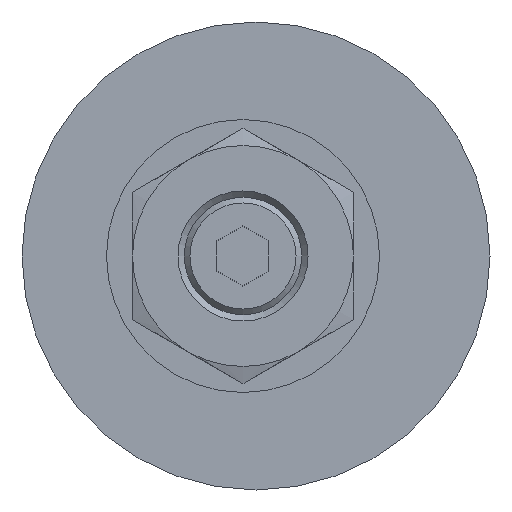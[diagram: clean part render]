
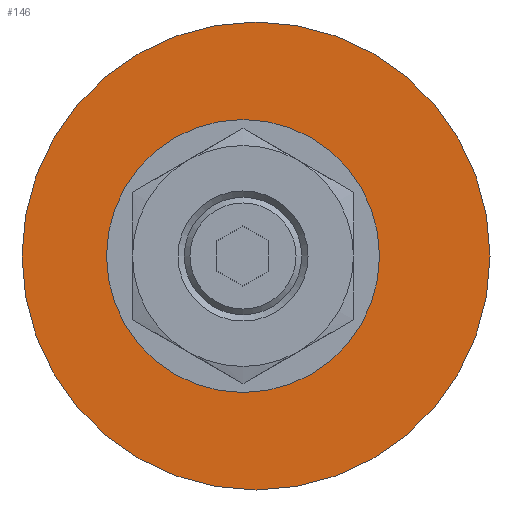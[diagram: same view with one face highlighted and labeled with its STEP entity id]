
A CAD part, front view. The second image highlights one B-rep face of the part: STEP entity #146.
In plain terms, the highlighted planar face has unit normal (0, -1, 0).
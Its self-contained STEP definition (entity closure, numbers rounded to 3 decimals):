
#146 = ADVANCED_FACE( '', ( #211, #212 ), #213, .F. );
#211 = FACE_BOUND( '', #310, .T. );
#212 = FACE_OUTER_BOUND( '', #311, .T. );
#213 = PLANE( '', #312 );
#310 = EDGE_LOOP( '', ( #505, #506, #507, #508, #509, #510 ) );
#311 = EDGE_LOOP( '', ( #511 ) );
#312 = AXIS2_PLACEMENT_3D( '', #512, #513, #514 );
#505 = ORIENTED_EDGE( '', *, *, #726, .T. );
#506 = ORIENTED_EDGE( '', *, *, #727, .T. );
#507 = ORIENTED_EDGE( '', *, *, #728, .T. );
#508 = ORIENTED_EDGE( '', *, *, #729, .T. );
#509 = ORIENTED_EDGE( '', *, *, #730, .T. );
#510 = ORIENTED_EDGE( '', *, *, #731, .T. );
#511 = ORIENTED_EDGE( '', *, *, #732, .T. );
#512 = CARTESIAN_POINT( '', ( 18., 3.8, 0. ) );
#513 = DIRECTION( '', ( 0., 1., 0. ) );
#514 = DIRECTION( '', ( 0., 0., 1. ) );
#726 = EDGE_CURVE( '', #837, #838, #839, .T. );
#727 = EDGE_CURVE( '', #838, #840, #841, .T. );
#728 = EDGE_CURVE( '', #840, #842, #843, .T. );
#729 = EDGE_CURVE( '', #842, #844, #845, .T. );
#730 = EDGE_CURVE( '', #844, #846, #847, .T. );
#731 = EDGE_CURVE( '', #846, #837, #848, .T. );
#732 = EDGE_CURVE( '', #849, #849, #850, .T. );
#837 = VERTEX_POINT( '', #1023 );
#838 = VERTEX_POINT( '', #1024 );
#839 = LINE( '', #1025, #1026 );
#840 = VERTEX_POINT( '', #1027 );
#841 = LINE( '', #1028, #1029 );
#842 = VERTEX_POINT( '', #1030 );
#843 = LINE( '', #1031, #1032 );
#844 = VERTEX_POINT( '', #1033 );
#845 = LINE( '', #1034, #1035 );
#846 = VERTEX_POINT( '', #1036 );
#847 = LINE( '', #1037, #1038 );
#848 = LINE( '', #1039, #1040 );
#849 = VERTEX_POINT( '', #1041 );
#850 = CIRCLE( '', #1042, 18. );
#1023 = CARTESIAN_POINT( '', ( 7.5, 3.8, 4.33 ) );
#1024 = CARTESIAN_POINT( '', ( 7.5, 3.8, -4.33 ) );
#1025 = CARTESIAN_POINT( '', ( 7.5, 3.8, 4.33 ) );
#1026 = VECTOR( '', #1177, 1000. );
#1027 = CARTESIAN_POINT( '', ( 0., 3.8, -8.66 ) );
#1028 = CARTESIAN_POINT( '', ( 7.5, 3.8, -4.33 ) );
#1029 = VECTOR( '', #1178, 1000. );
#1030 = CARTESIAN_POINT( '', ( -7.5, 3.8, -4.33 ) );
#1031 = CARTESIAN_POINT( '', ( 0., 3.8, -8.66 ) );
#1032 = VECTOR( '', #1179, 1000. );
#1033 = CARTESIAN_POINT( '', ( -7.5, 3.8, 4.33 ) );
#1034 = CARTESIAN_POINT( '', ( -7.5, 3.8, -4.33 ) );
#1035 = VECTOR( '', #1180, 1000. );
#1036 = CARTESIAN_POINT( '', ( 0., 3.8, 8.66 ) );
#1037 = CARTESIAN_POINT( '', ( -7.5, 3.8, 4.33 ) );
#1038 = VECTOR( '', #1181, 1000. );
#1039 = CARTESIAN_POINT( '', ( 0., 3.8, 8.66 ) );
#1040 = VECTOR( '', #1182, 1000. );
#1041 = CARTESIAN_POINT( '', ( 0., 3.8, -18. ) );
#1042 = AXIS2_PLACEMENT_3D( '', #1183, #1184, #1185 );
#1177 = DIRECTION( '', ( 0., 0., -1. ) );
#1178 = DIRECTION( '', ( -0.866, 0., -0.5 ) );
#1179 = DIRECTION( '', ( -0.866, 0., 0.5 ) );
#1180 = DIRECTION( '', ( 0., 0., 1. ) );
#1181 = DIRECTION( '', ( 0.866, 0., 0.5 ) );
#1182 = DIRECTION( '', ( 0.866, 0., -0.5 ) );
#1183 = CARTESIAN_POINT( '', ( 0., 3.8, 0. ) );
#1184 = DIRECTION( '', ( 0., -1., 0. ) );
#1185 = DIRECTION( '', ( 0., 0., -1. ) );
